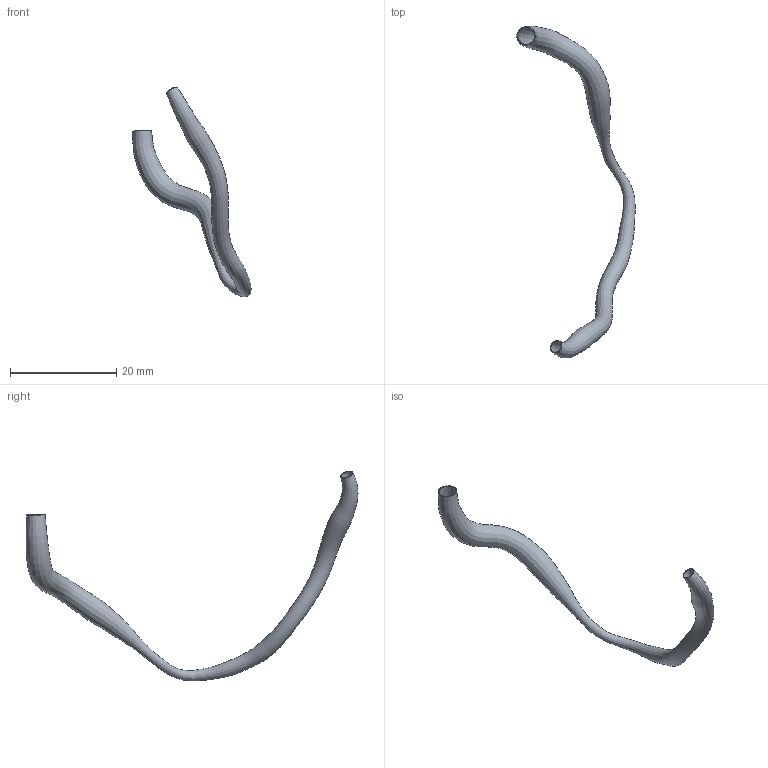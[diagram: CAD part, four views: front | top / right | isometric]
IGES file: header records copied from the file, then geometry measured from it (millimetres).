
Global section: file name: C:\Documents and Settings\Administrator\Desktop\FDA Bifurcation win\RawData_for_IGES\HRCA_Data\19990219.135207\IGES\19990219.135207.RCA.SEG.ES.igs; native system: Rhinoceros ( May 19 2006 ); preprocessor: Trout Lake IGES 012 May 19 2006; date: 100728.195833; units: centimetre
Bounding box: 22.24 x 62.47 x 39.46 mm (x, y, z)
Surface area: 2112.8 mm2 (no closed solid volume)
Topology: 0 solids, 0 shells, 4 faces, 12 edges, 8 vertices
Faces by surface type: bspline 4
